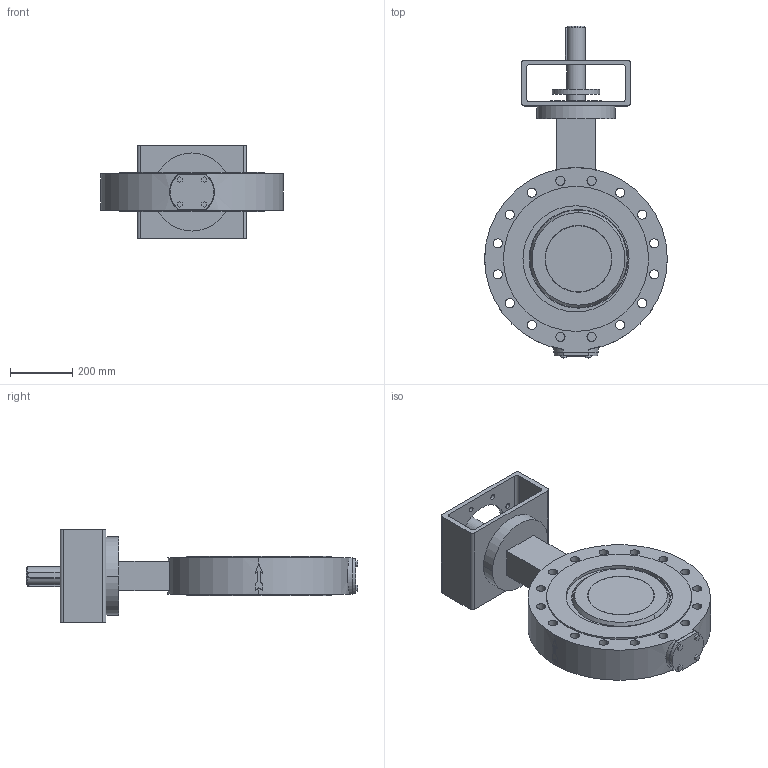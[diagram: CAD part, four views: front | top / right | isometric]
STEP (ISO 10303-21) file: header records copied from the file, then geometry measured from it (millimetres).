
FILE_DESCRIPTION( ( '' ), '1' );
FILE_NAME( 'F:/DE-SHS/TB/OR/04-Sonstiges/daten/files_3d/018_ZETRIX-PN10_freiesWellende/c000006385.stp', '2016-09-01T11:06:01', ( '' ), ( '' ), ' ', ' ', ' ' );
FILE_SCHEMA( ( 'CONFIG_CONTROL_DESIGN' ) );
Length unit declared in the file: millimetre
Products named in the file (1): 1
Bounding box: 585 x 1063.4 x 300 mm (x, y, z)
Volume: 34680667.8 mm3; surface area: 1836655 mm2
Topology: 1 solids, 1 shells, 235 faces, 610 edges, 407 vertices
Faces by surface type: cylinder 127, plane 100, cone 4, sphere 4
Entity records: 8241 total; most frequent: CARTESIAN_POINT 2113, DIRECTION 1321, ORIENTED_EDGE 1220, EDGE_CURVE 610, AXIS2_PLACEMENT_3D 509, VERTEX_POINT 407, EDGE_LOOP 315, LINE 303
